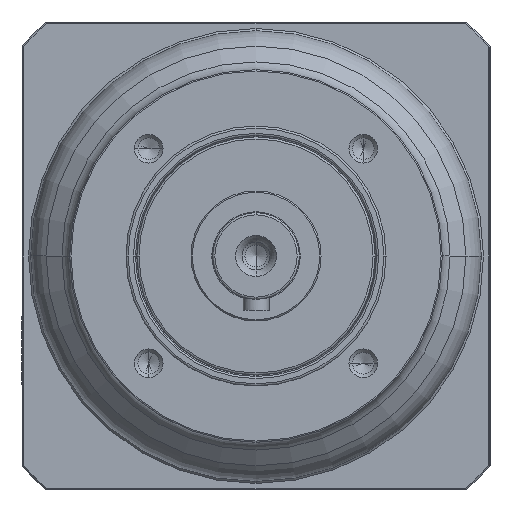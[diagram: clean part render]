
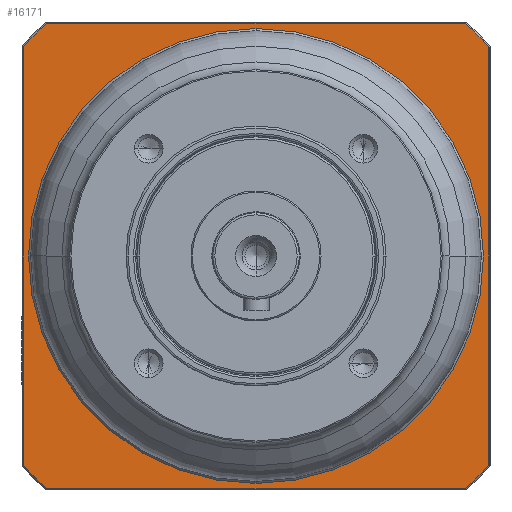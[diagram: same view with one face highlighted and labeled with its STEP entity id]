
A CAD part, left-side view. The second image highlights one B-rep face of the part: STEP entity #16171.
In plain terms, the highlighted planar face has unit normal (-1, 0, 0) as drawn and (0, 0, -1) by its records, which use the part's own axes.
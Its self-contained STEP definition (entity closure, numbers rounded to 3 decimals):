
#15065=CARTESIAN_POINT('',(0.,0.,
2.5));
#15066=DIRECTION('',(0.,0.,-1.));
#15067=DIRECTION('',(0.,-1.,0.));
#15068=AXIS2_PLACEMENT_3D('',#15065,#15066,#15067);
#15070=CARTESIAN_POINT('',(0.,0.,2.5));
#15071=DIRECTION('',(0.,0.,-1.));
#15072=DIRECTION('',(0.,1.,0.));
#15073=AXIS2_PLACEMENT_3D('',#15070,#15071,#15072);
#15075=CARTESIAN_POINT('',(0.,0.,2.5));
#15076=DIRECTION('',(0.,0.,1.));
#15077=DIRECTION('',(-0.744,-0.668,0.));
#15078=AXIS2_PLACEMENT_3D('',#15075,#15076,#15077);
#15080=DIRECTION('',(1.,0.,0.));
#15081=VECTOR('',#15080,96.523);
#15082=CARTESIAN_POINT('',(-48.261,-53.7,
2.5));
#15083=LINE('',#15082,#15081);
#15084=CARTESIAN_POINT('',(0.,0.,2.5));
#15085=DIRECTION('',(0.,0.,1.));
#15086=DIRECTION('',(0.668,-0.744,0.));
#15087=AXIS2_PLACEMENT_3D('',#15084,#15085,#15086);
#15089=DIRECTION('',(0.,1.,0.));
#15090=VECTOR('',#15089,96.523);
#15091=CARTESIAN_POINT('',(53.7,-48.261,
2.5));
#15092=LINE('',#15091,#15090);
#15093=CARTESIAN_POINT('',(0.,0.,2.5));
#15094=DIRECTION('',(0.,0.,1.));
#15095=DIRECTION('',(0.744,0.668,0.));
#15096=AXIS2_PLACEMENT_3D('',#15093,#15094,#15095);
#15098=DIRECTION('',(-1.,0.,0.));
#15099=VECTOR('',#15098,96.523);
#15100=CARTESIAN_POINT('',(48.261,53.7,2.5));
#15101=LINE('',#15100,#15099);
#15102=CARTESIAN_POINT('',(0.,0.,2.5));
#15103=DIRECTION('',(0.,0.,1.));
#15104=DIRECTION('',(-0.668,0.744,0.));
#15105=AXIS2_PLACEMENT_3D('',#15102,#15103,#15104);
#15107=DIRECTION('',(0.,-1.,0.));
#15108=VECTOR('',#15107,96.523);
#15109=CARTESIAN_POINT('',(-53.7,48.261,
2.5));
#15110=LINE('',#15109,#15108);
#15828=CARTESIAN_POINT('',(0.,-52.5,2.5));
#15829=CARTESIAN_POINT('',(0.,52.5,
2.5));
#15830=VERTEX_POINT('',#15828);
#15831=VERTEX_POINT('',#15829);
#15900=CARTESIAN_POINT('',(-53.7,-48.261,2.5));
#15901=CARTESIAN_POINT('',(-48.261,-53.7,2.5));
#15902=VERTEX_POINT('',#15900);
#15903=VERTEX_POINT('',#15901);
#15908=CARTESIAN_POINT('',(48.261,-53.7,
2.5));
#15909=VERTEX_POINT('',#15908);
#15912=CARTESIAN_POINT('',(53.7,-48.261,2.5));
#15913=VERTEX_POINT('',#15912);
#15916=CARTESIAN_POINT('',(53.7,48.261,2.5));
#15917=VERTEX_POINT('',#15916);
#15920=CARTESIAN_POINT('',(48.261,53.7,2.5));
#15921=VERTEX_POINT('',#15920);
#15924=CARTESIAN_POINT('',(-48.261,53.7,
2.5));
#15925=VERTEX_POINT('',#15924);
#15930=CARTESIAN_POINT('',(-53.7,48.261,2.5));
#15931=VERTEX_POINT('',#15930);
#16143=CARTESIAN_POINT('',(0.,0.,2.5));
#16144=DIRECTION('',(0.,0.,1.));
#16145=DIRECTION('',(0.,1.,0.));
#16146=AXIS2_PLACEMENT_3D('',#16143,#16144,#16145);
#16147=PLANE('',#16146);
#16149=ORIENTED_EDGE('',*,*,#16148,.T.);
#16151=ORIENTED_EDGE('',*,*,#16150,.T.);
#16153=ORIENTED_EDGE('',*,*,#16152,.T.);
#16155=ORIENTED_EDGE('',*,*,#16154,.T.);
#16157=ORIENTED_EDGE('',*,*,#16156,.T.);
#16159=ORIENTED_EDGE('',*,*,#16158,.T.);
#16161=ORIENTED_EDGE('',*,*,#16160,.T.);
#16163=ORIENTED_EDGE('',*,*,#16162,.T.);
#16164=EDGE_LOOP('',(#16149,#16151,#16153,#16155,#16157,#16159,#16161,#16163));
#16165=FACE_OUTER_BOUND('',#16164,.F.);
#16167=ORIENTED_EDGE('',*,*,#16166,.T.);
#16168=ORIENTED_EDGE('',*,*,#16133,.T.);
#16169=EDGE_LOOP('',(#16167,#16168));
#16170=FACE_BOUND('',#16169,.F.);
#16171=ADVANCED_FACE('',(#16165,#16170),#16147,.F.);
#15069=CIRCLE('',#15068,52.5);
#15074=CIRCLE('',#15073,52.5);
#15079=CIRCLE('',#15078,72.2);
#15088=CIRCLE('',#15087,72.2);
#15097=CIRCLE('',#15096,72.2);
#15106=CIRCLE('',#15105,72.2);
#16133=EDGE_CURVE('',#15831,#15830,#15074,.T.);
#16148=EDGE_CURVE('',#15902,#15903,#15079,.T.);
#16150=EDGE_CURVE('',#15903,#15909,#15083,.T.);
#16152=EDGE_CURVE('',#15909,#15913,#15088,.T.);
#16154=EDGE_CURVE('',#15913,#15917,#15092,.T.);
#16156=EDGE_CURVE('',#15917,#15921,#15097,.T.);
#16158=EDGE_CURVE('',#15921,#15925,#15101,.T.);
#16160=EDGE_CURVE('',#15925,#15931,#15106,.T.);
#16162=EDGE_CURVE('',#15931,#15902,#15110,.T.);
#16166=EDGE_CURVE('',#15830,#15831,#15069,.T.);
